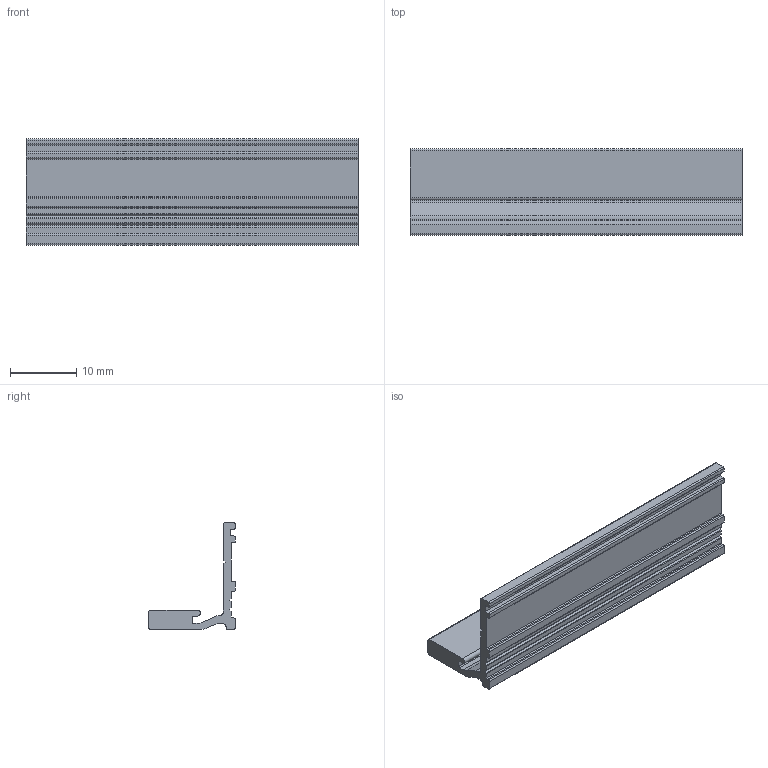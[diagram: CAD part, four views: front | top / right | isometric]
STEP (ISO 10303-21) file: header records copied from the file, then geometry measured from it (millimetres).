
FILE_DESCRIPTION(('CATIA V5 STEP Exchange','CAx-IF Rec.Pracs.--- Model Styling and Organization---1.4--- 2014-01-23'),'2;1');
FILE_NAME('Z:\DRAWINGS\1000\Profile Set 2400 mm SA Finish 1052.stp','2023-09-19T09:28:46+00:00',('none'),('none'),'CATIA Version 5-6 Release 2019','3DEXPERIENCE Platform STEP AP214 v1','none');
FILE_SCHEMA(('AUTOMOTIVE_DESIGN { 1 0 10303 214 1 1 1 1 }'));
Length unit declared in the file: millimetre
Products named in the file (1): Part110
Bounding box: 50 x 13.05 x 16.05 mm (x, y, z)
Volume: 2338.4 mm3; surface area: 3446.3 mm2
Topology: 1 solids, 1 shells, 69 faces, 201 edges, 134 vertices
Faces by surface type: plane 38, cylinder 31
Entity records: 2216 total; most frequent: ORIENTED_EDGE 402, CARTESIAN_POINT 397, DIRECTION 323, EDGE_CURVE 201, VECTOR 139, LINE 139, VERTEX_POINT 134, AXIS2_PLACEMENT_3D 124
